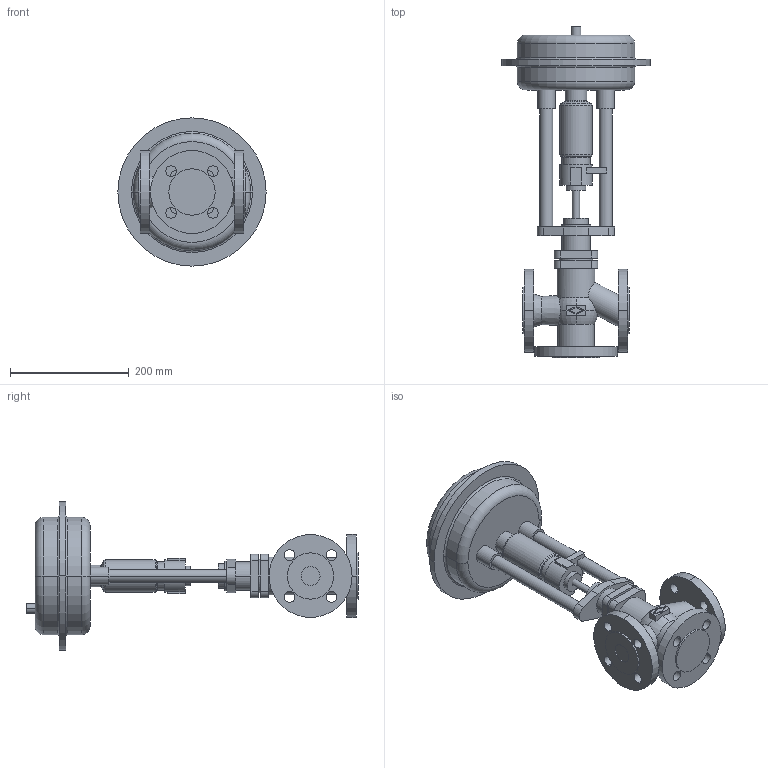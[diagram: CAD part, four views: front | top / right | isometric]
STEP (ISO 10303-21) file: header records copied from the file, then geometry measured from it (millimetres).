
FILE_DESCRIPTION(('OneSpaceDesigner STEP Export'),'2;1');
FILE_NAME('c000000770.stp','2006-09-13T12:38:49',(''),(''),'OneSpace Designer STEP processor for AP214 (Solid Model)','OneSpace Designer 13.20A 18-Aug-2005 (C) CoCreate Software GmbH','');
FILE_SCHEMA(('AUTOMOTIVE_DESIGN { 1 0 10303 214 1 1 1 1 }'));
Length unit declared in the file: millimetre
Products named in the file (2): 1; 2
Bounding box: 250 x 560 x 250 mm (x, y, z)
Volume: 5195266.7 mm3; surface area: 407849.5 mm2
Topology: 2 solids, 2 shells, 206 faces, 506 edges, 332 vertices
Faces by surface type: cylinder 94, plane 81, torus 23, cone 8
Entity records: 5553 total; most frequent: CARTESIAN_POINT 1084, ORIENTED_EDGE 1012, DIRECTION 808, EDGE_CURVE 506, VERTEX_POINT 332, AXIS2_PLACEMENT_3D 294, EDGE_LOOP 258, VECTOR 220
